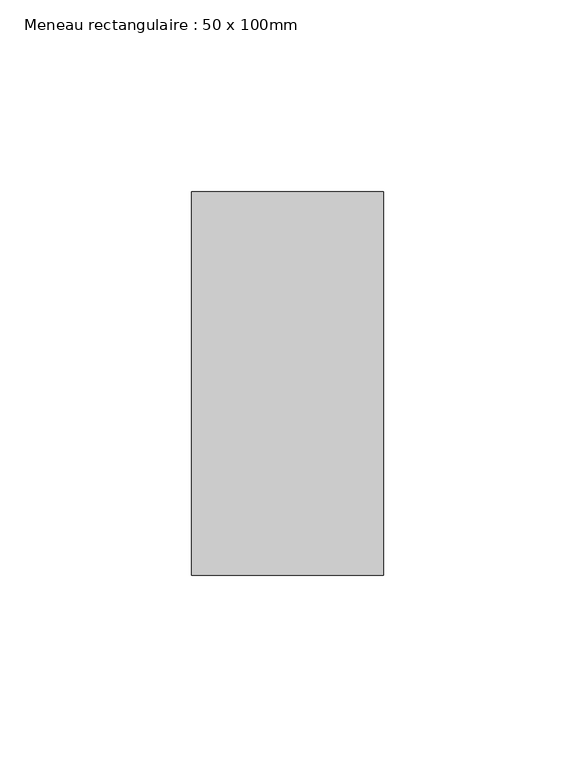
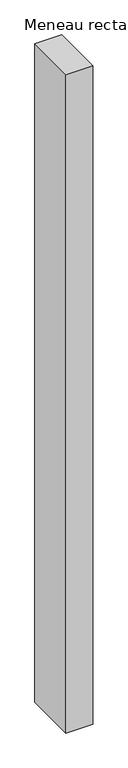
"""IFC4 building model written with IfcOpenShell, lengths in millimetres: member geometry, Meneau rectangulaire : 50 x 100mm."""

from ifc_helpers import new_model, si_unit, frame, origin, place, context, project, spatial, polyline, outline, extrude, source, transform, mapped, element, save


def meneau_rectangulaire_50_x_100mm_ef76ff4d(model_context):
    return source(origin(), model_context, "Body", "SweptSolid", [
        extrude(outline(polyline([(0.0, 50.0), (0.0, -50.0), (-50.0, -50.0), (-50.0, 50.0), (0.0, 50.0)])), frame((0.0, 0.0, -1293.3333333), z_axis=(0.0, 0.0, 1.0), x_axis=(1.0, 0.0, 0.0)), (0.0, 0.0, 1.0), 1293.3333333),
    ])


if __name__ == "__main__":
    model = new_model("IFC4")
    model_context = context("Model", 3, world=origin())
    ifc_project = project(units=[si_unit("LENGTHUNIT", "METRE", prefix="MILLI")], contexts=[model_context])
    site = spatial("IfcSite", under=ifc_project)
    building = spatial("IfcBuilding", under=site)
    placement = place(None, origin())
    meneau_rectangulaire_50_x_100mm_shape = meneau_rectangulaire_50_x_100mm_ef76ff4d(model_context)
    element("IfcMember", 1, ObjectType="Meneau rectangulaire : 50 x 100mm", at=placement, inside=building, context=model_context, shape_type="MappedRepresentation", body=[
        mapped(meneau_rectangulaire_50_x_100mm_shape, transform((0.0, 0.0, 0.0), x_axis=(1.0, 0.0, 0.0), y_axis=(0.0, 1.0, 0.0), z_axis=(0.0, 0.0, 1.0))),
    ])
    save(model, "model.ifc")
